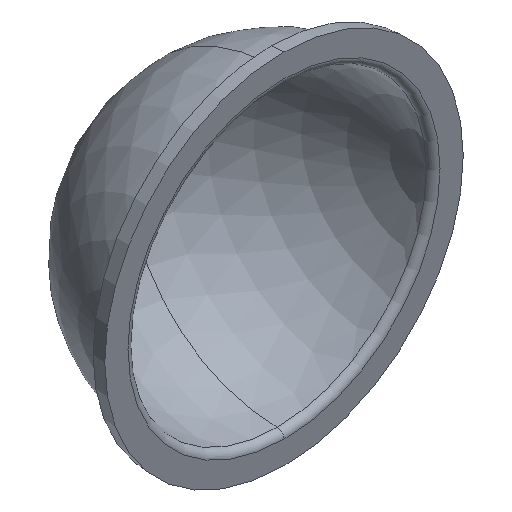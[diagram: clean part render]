
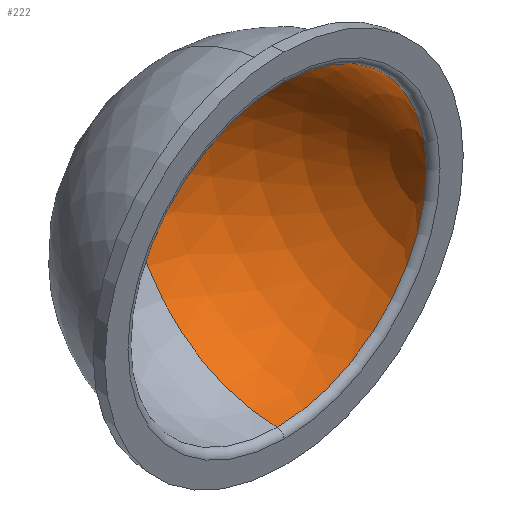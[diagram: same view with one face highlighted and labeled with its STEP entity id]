
A CAD part, isometric view. The second image highlights one B-rep face of the part: STEP entity #222.
In plain terms, the highlighted spherical face has radius 43.552 mm.
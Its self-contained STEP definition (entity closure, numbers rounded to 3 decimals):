
#26 = AXIS2_PLACEMENT_3D ( 'NONE', #177, #179, #155 ) ;
#28 = DIRECTION ( 'NONE',  ( 1., 0., 0. ) ) ;
#39 = CIRCLE ( 'NONE', #26, 43.552 ) ;
#43 = DIRECTION ( 'NONE',  ( 0., 0., 1. ) ) ;
#44 = ORIENTED_EDGE ( 'NONE', *, *, #162, .F. ) ;
#56 = DIRECTION ( 'NONE',  ( 0., 0., 1. ) ) ;
#57 = CARTESIAN_POINT ( 'NONE',  ( 0., 2., -43.552 ) ) ;
#61 = CARTESIAN_POINT ( 'NONE',  ( 0., 2., 0. ) ) ;
#64 = CIRCLE ( 'NONE', #204, 43.552 ) ;
#67 = EDGE_CURVE ( 'NONE', #121, #354, #39, .T. ) ;
#75 = FACE_OUTER_BOUND ( 'NONE', #146, .T. ) ;
#80 = CARTESIAN_POINT ( 'NONE',  ( 0., 2., 0. ) ) ;
#87 = SPHERICAL_SURFACE ( 'NONE', #217, 43.552 ) ;
#88 = ORIENTED_EDGE ( 'NONE', *, *, #115, .T. ) ;
#104 = CARTESIAN_POINT ( 'NONE',  ( 0., 2., 43.552 ) ) ;
#109 = CARTESIAN_POINT ( 'NONE',  ( 0., 45.552, 0. ) ) ;
#115 = EDGE_CURVE ( 'NONE', #241, #354, #64, .T. ) ;
#121 = VERTEX_POINT ( 'NONE', #57 ) ;
#146 = EDGE_LOOP ( 'NONE', ( #331, #44, #88 ) ) ;
#155 = DIRECTION ( 'NONE',  ( 0., 0., -1. ) ) ;
#162 = EDGE_CURVE ( 'NONE', #241, #121, #274, .T. ) ;
#177 = CARTESIAN_POINT ( 'NONE',  ( 0., 2., 0. ) ) ;
#178 = DIRECTION ( 'NONE',  ( 0., 1., 0. ) ) ;
#179 = DIRECTION ( 'NONE',  ( 1., 0., 0. ) ) ;
#204 = AXIS2_PLACEMENT_3D ( 'NONE', #80, #315, #270 ) ;
#217 = AXIS2_PLACEMENT_3D ( 'NONE', #61, #28, #56 ) ;
#222 = ADVANCED_FACE ( 'NONE', ( #75 ), #87, .F. ) ;
#241 = VERTEX_POINT ( 'NONE', #104 ) ;
#270 = DIRECTION ( 'NONE',  ( 0., 0., 1. ) ) ;
#274 = CIRCLE ( 'NONE', #311, 43.552 ) ;
#310 = CARTESIAN_POINT ( 'NONE',  ( 0., 2., 0. ) ) ;
#311 = AXIS2_PLACEMENT_3D ( 'NONE', #310, #178, #43 ) ;
#315 = DIRECTION ( 'NONE',  ( -1., 0., 0. ) ) ;
#331 = ORIENTED_EDGE ( 'NONE', *, *, #67, .F. ) ;
#354 = VERTEX_POINT ( 'NONE', #109 ) ;
